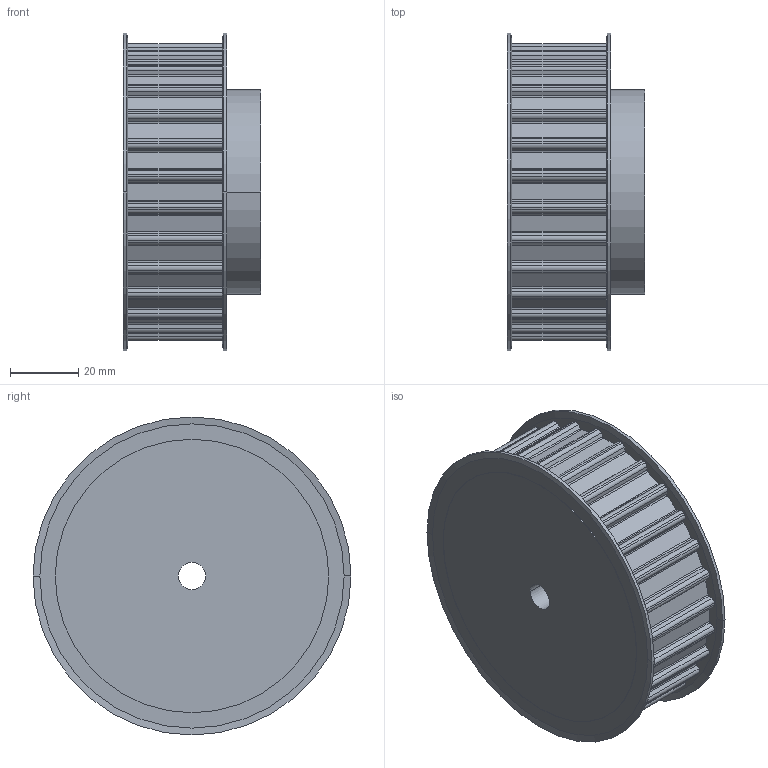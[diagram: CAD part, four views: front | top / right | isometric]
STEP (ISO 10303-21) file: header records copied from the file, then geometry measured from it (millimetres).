
FILE_DESCRIPTION( ( '' ), '1' );
FILE_NAME( 'C:/Users/Stangenbergd/Documents/CAD_Step/1/16832800.stp', '2021-10-19T09:45:48', ( '' ), ( '' ), ' ', ' ', ' ' );
FILE_SCHEMA( ( 'CONFIG_CONTROL_DESIGN' ) );
Length unit declared in the file: millimetre
Products named in the file (1): 1
Bounding box: 40.13 x 93 x 93 mm (x, y, z)
Volume: 195497.1 mm3; surface area: 28822.3 mm2
Topology: 1 solids, 1 shells, 251 faces, 724 edges, 480 vertices
Faces by surface type: cylinder 152, plane 91, cone 8
Entity records: 8414 total; most frequent: DIRECTION 1540, CARTESIAN_POINT 1456, ORIENTED_EDGE 1448, EDGE_CURVE 724, AXIS2_PLACEMENT_3D 564, VERTEX_POINT 480, LINE 412, VECTOR 412
